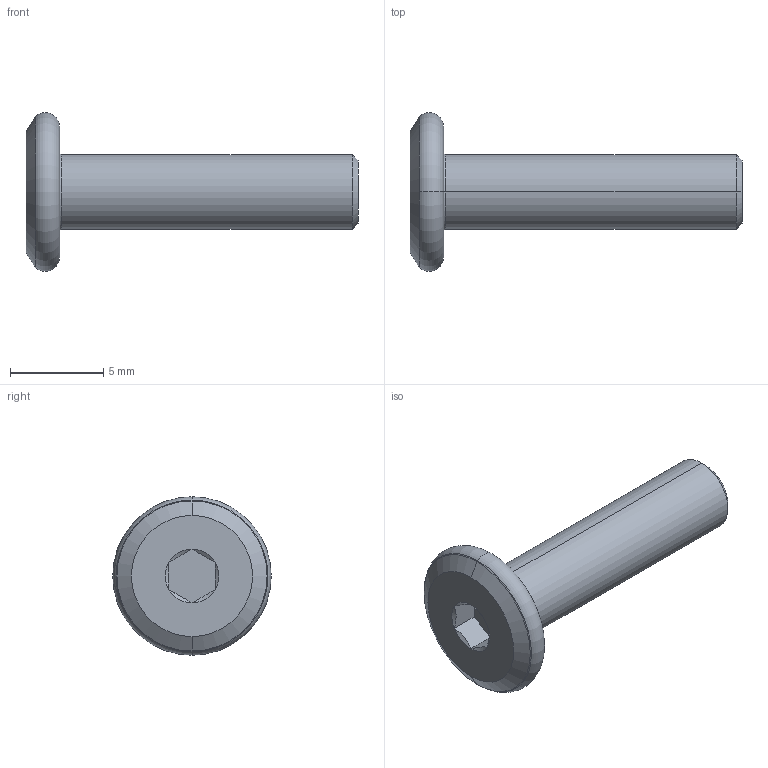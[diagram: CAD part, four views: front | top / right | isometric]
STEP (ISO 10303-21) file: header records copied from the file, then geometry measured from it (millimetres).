
FILE_DESCRIPTION (( 'STEP AP203' ), '1' );
FILE_NAME ('LGD-304D-M4x16.STEP', '2026-08-13T04:43:30', ( '' ), ( '' ), 'SwSTEP 2.0', 'SolidWorks 2020', '' );
FILE_SCHEMA (( 'CONFIG_CONTROL_DESIGN' ));
Length unit declared in the file: millimetre
Products named in the file (1): LGD-304D-M4x16
Bounding box: 17.8 x 8.5 x 8.5 mm (x, y, z)
Volume: 283 mm3; surface area: 348.8 mm2
Topology: 1 solids, 1 shells, 28 faces, 52 edges, 28 vertices
Faces by surface type: cone 10, plane 10, torus 6, cylinder 2
Entity records: 791 total; most frequent: CARTESIAN_POINT 151, DIRECTION 132, ORIENTED_EDGE 104, AXIS2_PLACEMENT_3D 57, EDGE_CURVE 52, EDGE_LOOP 30, CIRCLE 28, ADVANCED_FACE 28
